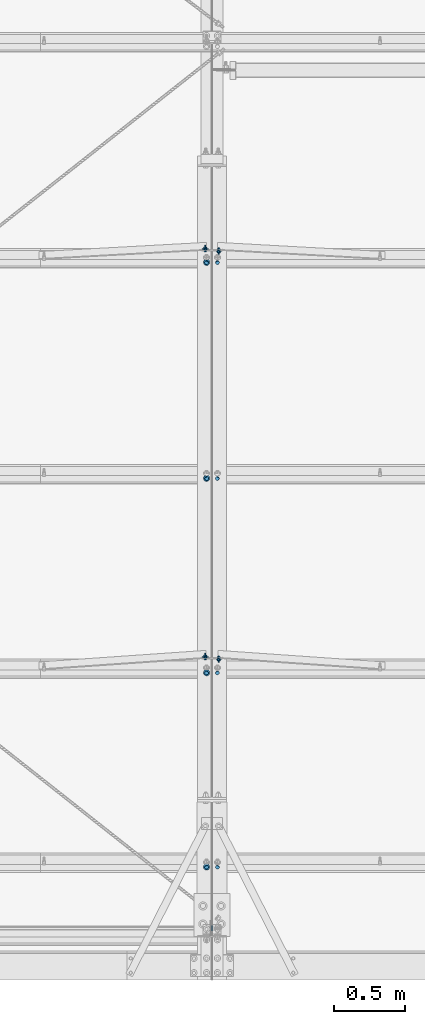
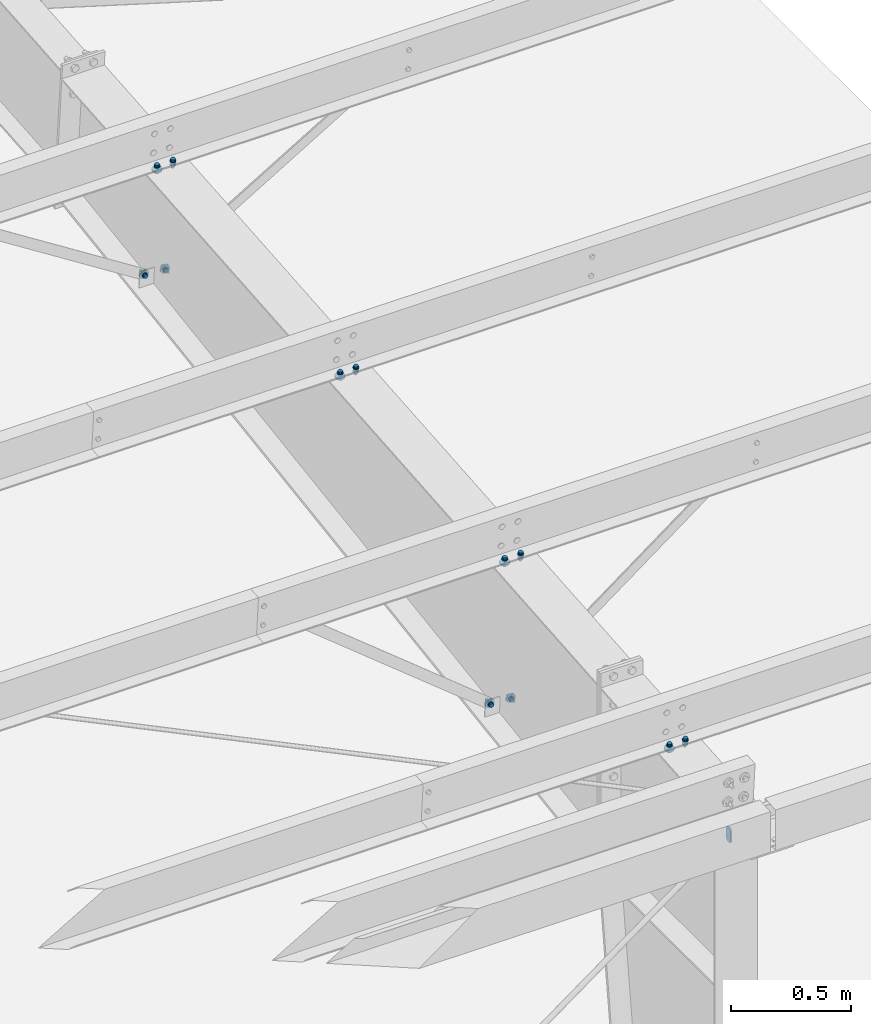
# One storey, part 167 of 185: 17 mechanical fasteners, 10 elements without a shape of their own.
"""IFC2X3 building model written with IfcOpenShell, lengths in millimetres."""

from ifc_helpers import new_model, si_unit, frame, frame_2d, origin_with_axes, origin_2d_with_axis, place, context, subcontext, project, spatial, polyline, circle_curve, parameter, trimmed, segment, composite_curve, circle, outline, extrude, source, transform, mapped, material, type_object, element, aggregate, save


model = new_model("IFC2X3")

# Units and contexts
model_context = context("Model", 3, precision=1e-05, world=origin_with_axes())
body_context = subcontext(model_context, "Body", "Model", "MODEL_VIEW")
ifc_project = project(units=[si_unit("LENGTHUNIT", "METRE", prefix="MILLI"), si_unit("AREAUNIT", "SQUARE_METRE"), si_unit("VOLUMEUNIT", "CUBIC_METRE"), si_unit("MASSUNIT", "GRAM", prefix="KILO"), si_unit("TIMEUNIT", "SECOND"), si_unit("PLANEANGLEUNIT", "RADIAN"), si_unit("SOLIDANGLEUNIT", "STERADIAN"), si_unit("THERMODYNAMICTEMPERATUREUNIT", "DEGREE_CELSIUS"), si_unit("LUMINOUSINTENSITYUNIT", "LUMEN")], contexts=[model_context])

# Site, building, storey
site_placement = place(None, origin_with_axes())
site = spatial("IfcSite", under=ifc_project, at=site_placement, Name="Undefined", CompositionType="ELEMENT")
building_placement = place(site_placement, origin_with_axes())
building = spatial("IfcBuilding", under=site, at=building_placement, Name="Undefined", CompositionType="ELEMENT")
storey_placement = place(building_placement, origin_with_axes())
storey = spatial("IfcBuildingStorey", under=building, at=storey_placement, Name="Undefined", CompositionType="ELEMENT", Elevation=0.0)

# Assembly, mechanical fastener
assembly_1_placement = place(storey_placement, origin_with_axes())
assembly_1 = element("IfcElementAssembly", 1, at=assembly_1_placement, inside=storey, Name="Steel Assembly", AssemblyPlace="NOTDEFINED", PredefinedType="RIGID_FRAME")
ifc_material_1 = material(Name="Undefined")
discrete_accessory_type = type_object("IfcDiscreteAccessoryType", Name="Bolt assembly")
shared_shape_1 = source(origin_with_axes(), body_context, "Body", "SweptSolid", [
    extrude(circle(Radius=7.14374971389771, at=origin_2d_with_axis()), frame((0.0, -1.59000001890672, 0.0), z_axis=(0.0, 1.0, 0.0), x_axis=(1.0, 0.0, 0.0)), (0.0, 0.0, 1.0), 1.7),
    extrude(outline(polyline([(10.9985221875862, 0.0), (5.4992610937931, 9.52499961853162), (-5.4992610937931, 9.52499961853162), (-10.9985221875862, 0.0), (-5.4992610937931, -9.52499961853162), (5.4992610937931, -9.52499961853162), (10.9985221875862, 0.0)])), frame((0.0, -15.0837496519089, 0.0), z_axis=(0.0, 1.0, 0.0), x_axis=(1.0, 0.0, 0.0)), (0.0, 0.0, 1.0), 9.5),
    extrude(circle(Radius=6.34999990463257, at=origin_2d_with_axis()), frame((0.0, -5.5587500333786, 0.0), z_axis=(0.0, 1.0, 0.0), x_axis=(1.0, 0.0, 0.0)), (0.0, 0.0, 1.0), 38.1),
    extrude(circle(Radius=13.4937496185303, at=origin_2d_with_axis()), frame((0.0, -5.5587500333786, 0.0), z_axis=(0.0, 1.0, 0.0), x_axis=(1.0, 0.0, 0.0)), (0.0, 0.0, 1.0), 4.0),
    extrude(circle(Radius=22.2250003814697, at=origin_2d_with_axis()), frame((0.0, 0.0, 0.0), z_axis=(0.0, 1.0, 0.0), x_axis=(1.0, 0.0, 0.0)), (0.0, 0.0, 1.0), 7.9),
    extrude(outline(polyline([(12.8316099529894, 0.0), (6.4158049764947, 11.1125001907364), (-6.4158049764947, 11.1125001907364), (-12.8316099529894, 0.0), (-6.4158049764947, -11.1125001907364), (6.4158049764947, -11.1125001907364), (12.8316099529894, 0.0)])), frame((0.0, 7.93750000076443, 0.0), z_axis=(0.0, 1.0, 0.0), x_axis=(1.0, 0.0, 0.0)), (0.0, 0.0, 1.0), 12.3),
])
mechanical_fastener_1_placement = place(assembly_1_placement, frame((37766.6639261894, 5133.85828382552, 5717.19673029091), z_axis=(0.553384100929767, 0.0691707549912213, -0.830049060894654), x_axis=(0.832926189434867, -0.0459560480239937, 0.551472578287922)))
mechanical_fastener_1 = element("IfcMechanicalFastener", 2, at=mechanical_fastener_1_placement, type_object=discrete_accessory_type, material=ifc_material_1, Name="Bolt assembly", NominalDiameter=12.6999998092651, NominalLength=38.0999984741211, context=body_context, shape_type="MappedRepresentation", body=[
    mapped(shared_shape_1, transform((0.0, 0.0, 0.0))),
])
aggregate(assembly_1, [mechanical_fastener_1])

assembly_2_placement = place(storey_placement, origin_with_axes())
assembly_2 = element("IfcElementAssembly", 3, at=assembly_2_placement, inside=storey, Name="Steel Assembly", AssemblyPlace="NOTDEFINED", PredefinedType="RIGID_FRAME")
mechanical_fastener_2_placement = place(assembly_2_placement, frame((37766.5983884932, 2264.37498076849, 5283.35510462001), z_axis=(0.641182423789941, 0.0637281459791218, -0.764737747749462), x_axis=(0.767388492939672, -0.053247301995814, 0.638967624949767)))
mechanical_fastener_2 = element("IfcMechanicalFastener", 4, at=mechanical_fastener_2_placement, type_object=discrete_accessory_type, material=ifc_material_1, Name="Bolt assembly", NominalDiameter=12.6999998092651, NominalLength=38.0999984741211, context=body_context, shape_type="MappedRepresentation", body=[
    mapped(shared_shape_1, transform((0.0, 0.0, 0.0))),
])
aggregate(assembly_2, [mechanical_fastener_2])

assembly_3_placement = place(storey_placement, origin_with_axes())
assembly_3 = element("IfcElementAssembly", 5, at=assembly_3_placement, inside=storey, Name="Steel Assembly", AssemblyPlace="NOTDEFINED", PredefinedType="RIGID_FRAME")
shared_shape_2 = source(origin_with_axes(), body_context, "Body", "SweptSolid", [
    extrude(circle(Radius=7.14374971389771, at=origin_2d_with_axis()), frame((0.0, 0.0, 0.0), z_axis=(0.0, 1.0, 0.0), x_axis=(1.0, 0.0, 0.0)), (0.0, 0.0, 1.0), 1.7),
    extrude(outline(polyline([(10.9985221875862, 0.0), (5.4992610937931, 9.52499961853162), (-5.4992610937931, 9.52499961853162), (-10.9985221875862, 0.0), (-5.4992610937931, -9.52499961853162), (5.4992610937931, -9.52499961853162), (10.9985221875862, 0.0)])), frame((0.0, -13.4937496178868, 0.0), z_axis=(0.0, 1.0, 0.0), x_axis=(1.0, 0.0, 0.0)), (0.0, 0.0, 1.0), 9.5),
    extrude(circle(Radius=6.34999990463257, at=origin_2d_with_axis()), frame((0.0, -3.96874999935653, 0.0), z_axis=(0.0, 1.0, 0.0), x_axis=(1.0, 0.0, 0.0)), (0.0, 0.0, 1.0), 38.1),
    extrude(circle(Radius=13.4937496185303, at=origin_2d_with_axis()), frame((0.0, -3.96874999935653, 0.0), z_axis=(0.0, 1.0, 0.0), x_axis=(1.0, 0.0, 0.0)), (0.0, 0.0, 1.0), 4.0),
    extrude(circle(Radius=22.2250003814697, at=origin_2d_with_axis()), frame((0.0, 1.5900000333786, 0.0), z_axis=(0.0, 1.0, 0.0), x_axis=(1.0, 0.0, 0.0)), (0.0, 0.0, 1.0), 7.9),
    extrude(outline(polyline([(12.8316099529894, 0.0), (6.4158049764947, 11.1125001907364), (-6.4158049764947, 11.1125001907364), (-12.8316099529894, 0.0), (-6.4158049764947, -11.1125001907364), (6.4158049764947, -11.1125001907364), (12.8316099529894, 0.0)])), frame((0.0, 9.5275000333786, 0.0), z_axis=(0.0, 1.0, 0.0), x_axis=(1.0, 0.0, 0.0)), (0.0, 0.0, 1.0), 12.3),
])
mechanical_fastener_3_placement = place(assembly_3_placement, frame((37671.3360738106, 5133.85828382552, 5717.1967302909), z_axis=(-0.553384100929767, 0.0691707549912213, -0.830049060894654), x_axis=(-0.832926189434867, -0.0459560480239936, 0.551472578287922)))
mechanical_fastener_3 = element("IfcMechanicalFastener", 6, at=mechanical_fastener_3_placement, type_object=discrete_accessory_type, material=ifc_material_1, Name="Bolt assembly", NominalDiameter=12.6999998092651, NominalLength=38.0999984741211, context=body_context, shape_type="MappedRepresentation", body=[
    mapped(shared_shape_2, transform((0.0, 0.0, 0.0))),
])
aggregate(assembly_3, [mechanical_fastener_3])

assembly_4_placement = place(storey_placement, origin_with_axes())
assembly_4 = element("IfcElementAssembly", 7, at=assembly_4_placement, inside=storey, Name="Steel Assembly", AssemblyPlace="NOTDEFINED", PredefinedType="RIGID_FRAME")
mechanical_fastener_4_placement = place(assembly_4_placement, frame((37671.4016115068, 2264.37498076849, 5283.35510462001), z_axis=(-0.641182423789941, 0.0637281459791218, -0.764737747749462), x_axis=(-0.767388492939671, -0.0532473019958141, 0.638967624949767)))
mechanical_fastener_4 = element("IfcMechanicalFastener", 8, at=mechanical_fastener_4_placement, type_object=discrete_accessory_type, material=ifc_material_1, Name="Bolt assembly", NominalDiameter=12.6999998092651, NominalLength=38.0999984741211, context=body_context, shape_type="MappedRepresentation", body=[
    mapped(shared_shape_2, transform((0.0, 0.0, 0.0))),
])
aggregate(assembly_4, [mechanical_fastener_4])

# Assembly, mechanical fasteners
assembly_5_placement = place(storey_placement, origin_with_axes())
assembly_5 = element("IfcElementAssembly", 9, at=assembly_5_placement, inside=storey, Name="Steel Assembly", AssemblyPlace="NOTDEFINED", PredefinedType="RIGID_FRAME")
ifc_material_2 = material(Name="7990")
shared_shape_3 = source(origin_with_axes(), body_context, "Body", "SweptSolid", [
    extrude(circle(Radius=7.14374971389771, at=origin_2d_with_axis()), frame((0.0, -3.41600000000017, 0.0), z_axis=(0.0, 1.0, 0.0), x_axis=(1.0, 0.0, 0.0)), (0.0, 0.0, 1.0), 3.5),
    extrude(circle(Radius=11.4299998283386, at=origin_2d_with_axis()), frame((0.0, 0.0, 0.0), z_axis=(0.0, 1.0, 0.0), x_axis=(1.0, 0.0, 0.0)), (0.0, 0.0, 1.0), 4.2),
    extrude(outline(polyline([(12.171698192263, 0.0), (6.08584909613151, 10.5409998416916), (-6.08584909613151, 10.5409998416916), (-12.171698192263, 0.0), (-6.08584909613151, -10.5409998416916), (6.08584909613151, -10.5409998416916), (12.171698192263, 0.0)])), frame((0.0, 4.1909999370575, 0.0), z_axis=(0.0, 1.0, 0.0), x_axis=(1.0, 0.0, 0.0)), (0.0, 0.0, 1.0), 8.4),
])
mechanical_fastener_5_placement = place(assembly_5_placement, frame((37672.169, 5133.90423987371, 5716.6452577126), z_axis=(0.921635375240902, 0.0322263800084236, -0.386716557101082), x_axis=(-0.388056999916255, 0.0765376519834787, -0.9184518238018)))
mechanical_fastener_5 = element("IfcMechanicalFastener", 10, at=mechanical_fastener_5_placement, type_object=discrete_accessory_type, material=ifc_material_2, Name="Bolt assembly", NominalDiameter=12.6999998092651, NominalLength=38.0999984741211, context=body_context, shape_type="MappedRepresentation", body=[
    mapped(shared_shape_3, transform((0.0, 0.0, 0.0))),
])
mechanical_fastener_6_placement = place(assembly_5_placement, frame((37672.169, 2264.42822807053, 5282.71613699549), z_axis=(0.921635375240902, 0.0322263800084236, -0.386716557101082), x_axis=(-0.388056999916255, 0.0765376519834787, -0.9184518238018)))
mechanical_fastener_6 = element("IfcMechanicalFastener", 11, at=mechanical_fastener_6_placement, type_object=discrete_accessory_type, material=ifc_material_2, Name="Bolt assembly", NominalDiameter=12.6999998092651, NominalLength=38.0999984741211, context=body_context, shape_type="MappedRepresentation", body=[
    mapped(shared_shape_3, transform((0.0, 0.0, 0.0))),
])
shared_shape_4 = source(origin_with_axes(), body_context, "Body", "SweptSolid", [
    extrude(circle(Radius=7.14374971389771, at=origin_2d_with_axis()), frame((0.0, 0.0, 0.0), z_axis=(0.0, 1.0, 0.0), x_axis=(1.0, 0.0, 0.0)), (0.0, 0.0, 1.0), 3.5),
    extrude(circle(Radius=11.4299998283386, at=origin_2d_with_axis()), frame((0.0, 3.41600000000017, 0.0), z_axis=(0.0, 1.0, 0.0), x_axis=(1.0, 0.0, 0.0)), (0.0, 0.0, 1.0), 4.2),
    extrude(outline(polyline([(12.171698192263, 0.0), (6.08584909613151, 10.5409998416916), (-6.08584909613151, 10.5409998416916), (-12.171698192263, 0.0), (-6.08584909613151, -10.5409998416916), (6.08584909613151, -10.5409998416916), (12.171698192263, 0.0)])), frame((0.0, 7.60699993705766, 0.0), z_axis=(0.0, 1.0, 0.0), x_axis=(1.0, 0.0, 0.0)), (0.0, 0.0, 1.0), 8.4),
])
mechanical_fastener_7_placement = place(assembly_5_placement, frame((37765.831, 5133.90423987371, 5716.6452577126), z_axis=(-0.921635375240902, 0.0322263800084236, -0.386716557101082), x_axis=(0.388056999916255, 0.0765376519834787, -0.9184518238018)))
mechanical_fastener_7 = element("IfcMechanicalFastener", 12, at=mechanical_fastener_7_placement, type_object=discrete_accessory_type, material=ifc_material_2, Name="Bolt assembly", NominalDiameter=12.6999998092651, NominalLength=38.0999984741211, context=body_context, shape_type="MappedRepresentation", body=[
    mapped(shared_shape_4, transform((0.0, 0.0, 0.0))),
])
mechanical_fastener_8_placement = place(assembly_5_placement, frame((37765.831, 2264.42822807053, 5282.71613699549), z_axis=(-0.921635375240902, 0.0322263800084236, -0.386716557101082), x_axis=(0.388056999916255, 0.0765376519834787, -0.9184518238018)))
mechanical_fastener_8 = element("IfcMechanicalFastener", 13, at=mechanical_fastener_8_placement, type_object=discrete_accessory_type, material=ifc_material_2, Name="Bolt assembly", NominalDiameter=12.6999998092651, NominalLength=38.0999984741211, context=body_context, shape_type="MappedRepresentation", body=[
    mapped(shared_shape_4, transform((0.0, 0.0, 0.0))),
])
aggregate(assembly_5, [mechanical_fastener_7, mechanical_fastener_5, mechanical_fastener_8, mechanical_fastener_6])

# Assembly, mechanical fastener
assembly_6_placement = place(storey_placement, origin_with_axes())
assembly_6 = element("IfcElementAssembly", 14, at=assembly_6_placement, inside=storey, Name="Steel Assembly", AssemblyPlace="NOTDEFINED", PredefinedType="RIGID_FRAME")
shared_shape_5 = source(origin_with_axes(), body_context, "Body", "SweptSolid", [
    extrude(outline(composite_curve([segment(polyline([(-23.8125, 17.4624996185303), (23.8125, 17.4624996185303)]), True, "CONTINUOUS"), segment(trimmed(circle_curve(frame_2d((23.8125, 4.76249980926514), x_axis=(0.0, 1.0)), 12.7), [parameter(0.0)], [parameter(4.71238898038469)], False, "PARAMETER"), True, "CONTINUOUS"), segment(polyline([(36.5124998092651, 4.76249980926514), (36.5124998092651, -4.76249980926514)]), True, "CONTINUOUS"), segment(trimmed(circle_curve(frame_2d((23.8125, -4.76249980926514), x_axis=(1.0, 0.0)), 12.7), [parameter(0.0)], [parameter(4.71238898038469)], False, "PARAMETER"), True, "CONTINUOUS"), segment(polyline([(23.8125, -17.4624996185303), (-23.8125, -17.4624996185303)]), True, "CONTINUOUS"), segment(trimmed(circle_curve(frame_2d((-23.8125, -4.76249980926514), x_axis=(0.0, -1.0)), 12.7), [parameter(0.0)], [parameter(4.71238898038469)], False, "PARAMETER"), True, "CONTINUOUS"), segment(polyline([(-36.5124998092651, -4.76249980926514), (-36.5124998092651, 4.76249980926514)]), True, "CONTINUOUS"), segment(trimmed(circle_curve(frame_2d((-23.8125, 4.76249980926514), x_axis=(-1.0, 0.0)), 12.7), [parameter(0.0)], [parameter(4.71238898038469)], False, "PARAMETER"), True, "DISCONTINUOUS")], self_intersect=False)), frame((0.0, -3.96874999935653, 0.0), z_axis=(0.0, 1.0, 0.0), x_axis=(1.0, 0.0, 0.0)), (0.0, 0.0, 1.0), 8.0),
])
mechanical_fastener_9_placement = place(assembly_6_placement, frame((37719.0, 363.473999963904, 5757.77423229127), z_axis=(0.0, 1.0, 0.0), x_axis=(0.0, 0.0, -1.0)))
mechanical_fastener_9 = element("IfcMechanicalFastener", 15, at=mechanical_fastener_9_placement, type_object=discrete_accessory_type, material=ifc_material_1, Name="Bolt assembly", NominalDiameter=25.3999996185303, NominalLength=31.75, context=body_context, shape_type="MappedRepresentation", body=[
    mapped(shared_shape_5, transform((0.0, 0.0, 0.0))),
])
aggregate(assembly_6, [mechanical_fastener_9])

# Assembly, mechanical fasteners
assembly_7_placement = place(storey_placement, origin_with_axes())
assembly_7 = element("IfcElementAssembly", 16, at=assembly_7_placement, inside=storey, Name="Steel Assembly", AssemblyPlace="NOTDEFINED", PredefinedType="RIGID_FRAME")
shared_shape_6 = source(origin_with_axes(), body_context, "Body", "SweptSolid", [
    extrude(circle(Radius=7.14374971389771, at=origin_2d_with_axis()), frame((0.0, -0.1, 0.0), z_axis=(0.0, 1.0, 0.0), x_axis=(1.0, 0.0, 0.0)), (0.0, 0.0, 1.0), 8.1),
    extrude(circle(Radius=7.14374971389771, at=origin_2d_with_axis()), frame((0.0, -3.08000006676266, 0.0), z_axis=(0.0, 1.0, 0.0), x_axis=(1.0, 0.0, 0.0)), (0.0, 0.0, 1.0), 3.2),
    extrude(circle(Radius=7.14374971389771, at=origin_2d_with_axis()), frame((0.0, -3.08000006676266, 0.0), z_axis=(0.0, 1.0, 0.0), x_axis=(1.0, 0.0, 0.0)), (0.0, 0.0, 1.0), 3.2),
    extrude(outline(polyline([(10.9985221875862, 0.0), (5.4992610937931, 9.52499961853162), (-5.4992610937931, 9.52499961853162), (-10.9985221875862, 0.0), (-5.4992610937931, -9.52499961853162), (5.4992610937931, -9.52499961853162), (10.9985221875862, 0.0)])), frame((0.0, -16.6737496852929, 0.0), z_axis=(0.0, 1.0, 0.0), x_axis=(1.0, 0.0, 0.0)), (0.0, 0.0, 1.0), 9.5),
    extrude(circle(Radius=6.34999990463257, at=origin_2d_with_axis()), frame((0.0, -7.14875006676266, 0.0), z_axis=(0.0, 1.0, 0.0), x_axis=(1.0, 0.0, 0.0)), (0.0, 0.0, 1.0), 38.1),
    extrude(circle(Radius=13.4937496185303, at=origin_2d_with_axis()), frame((0.0, -7.14875006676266, 0.0), z_axis=(0.0, 1.0, 0.0), x_axis=(1.0, 0.0, 0.0)), (0.0, 0.0, 1.0), 4.0),
    extrude(circle(Radius=22.2250003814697, at=origin_2d_with_axis()), frame((0.0, 7.95019856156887, 0.0), z_axis=(0.0, 1.0, 0.0), x_axis=(1.0, 0.0, 0.0)), (0.0, 0.0, 1.0), 7.9),
    extrude(outline(polyline([(12.8316099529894, 0.0), (6.4158049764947, 11.1125001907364), (-6.4158049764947, 11.1125001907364), (-12.8316099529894, 0.0), (-6.4158049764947, -11.1125001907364), (6.4158049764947, -11.1125001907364), (12.8316099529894, 0.0)])), frame((0.0, 15.8876985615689, 0.0), z_axis=(0.0, 1.0, 0.0), x_axis=(1.0, 0.0, 0.0)), (0.0, 0.0, 1.0), 12.3),
])
mechanical_fastener_10_placement = place(assembly_7_placement, frame((37680.9, 793.549517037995, 5958.22479168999), z_axis=(1.0, 0.0, 0.0), x_axis=(0.0, -0.996545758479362, -0.0830454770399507)))
mechanical_fastener_10 = element("IfcMechanicalFastener", 17, at=mechanical_fastener_10_placement, type_object=discrete_accessory_type, material=ifc_material_1, Name="Bolt assembly", NominalDiameter=12.6999998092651, NominalLength=38.0999984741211, context=body_context, shape_type="MappedRepresentation", body=[
    mapped(shared_shape_6, transform((0.0, 0.0, 0.0))),
])
shared_shape_7 = source(origin_with_axes(), body_context, "Body", "SweptSolid", [
    extrude(circle(Radius=7.14374971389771, at=origin_2d_with_axis()), frame((0.0, -0.1, 0.0), z_axis=(0.0, 1.0, 0.0), x_axis=(1.0, 0.0, 0.0)), (0.0, 0.0, 1.0), 8.1),
    extrude(circle(Radius=7.14374971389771, at=origin_2d_with_axis()), frame((0.0, -3.08000006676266, 0.0), z_axis=(0.0, 1.0, 0.0), x_axis=(1.0, 0.0, 0.0)), (0.0, 0.0, 1.0), 3.2),
    extrude(circle(Radius=7.14374971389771, at=origin_2d_with_axis()), frame((0.0, -3.08000006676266, 0.0), z_axis=(0.0, 1.0, 0.0), x_axis=(1.0, 0.0, 0.0)), (0.0, 0.0, 1.0), 3.2),
    extrude(outline(polyline([(10.9985221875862, 0.0), (5.4992610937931, 9.52499961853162), (-5.4992610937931, 9.52499961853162), (-10.9985221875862, 0.0), (-5.4992610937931, -9.52499961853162), (5.4992610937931, -9.52499961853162), (10.9985221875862, 0.0)])), frame((0.0, -16.6737496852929, 0.0), z_axis=(0.0, 1.0, 0.0), x_axis=(1.0, 0.0, 0.0)), (0.0, 0.0, 1.0), 9.5),
    extrude(circle(Radius=6.34999990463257, at=origin_2d_with_axis()), frame((0.0, -7.14875006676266, 0.0), z_axis=(0.0, 1.0, 0.0), x_axis=(1.0, 0.0, 0.0)), (0.0, 0.0, 1.0), 38.1),
    extrude(circle(Radius=13.4937496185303, at=origin_2d_with_axis()), frame((0.0, -7.14875006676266, 0.0), z_axis=(0.0, 1.0, 0.0), x_axis=(1.0, 0.0, 0.0)), (0.0, 0.0, 1.0), 4.0),
    extrude(outline(polyline([(12.8316099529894, 0.0), (6.4158049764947, 11.1125001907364), (-6.4158049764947, 11.1125001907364), (-12.8316099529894, 0.0), (-6.4158049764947, -11.1125001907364), (6.4158049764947, -11.1125001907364), (12.8316099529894, 0.0)])), frame((0.0, 7.95019856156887, 0.0), z_axis=(0.0, 1.0, 0.0), x_axis=(1.0, 0.0, 0.0)), (0.0, 0.0, 1.0), 12.3),
])
mechanical_fastener_11_placement = place(assembly_7_placement, frame((37757.1, 793.549517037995, 5958.22479168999), z_axis=(1.0, 0.0, 0.0), x_axis=(0.0, -0.996545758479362, -0.0830454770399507)))
mechanical_fastener_11 = element("IfcMechanicalFastener", 18, at=mechanical_fastener_11_placement, type_object=discrete_accessory_type, material=ifc_material_1, Name="Bolt assembly", NominalDiameter=12.6999998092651, NominalLength=38.0999984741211, context=body_context, shape_type="MappedRepresentation", body=[
    mapped(shared_shape_7, transform((0.0, 0.0, 0.0))),
])
aggregate(assembly_7, [mechanical_fastener_10, mechanical_fastener_11])

assembly_8_placement = place(storey_placement, origin_with_axes())
assembly_8 = element("IfcElementAssembly", 19, at=assembly_8_placement, inside=storey, Name="Steel Assembly", AssemblyPlace="NOTDEFINED", PredefinedType="RIGID_FRAME")
shared_shape_8 = source(origin_with_axes(), body_context, "Body", "SweptSolid", [
    extrude(circle(Radius=7.14374971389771, at=origin_2d_with_axis()), frame((0.0, -0.0897199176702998, 0.0), z_axis=(0.0, 1.0, 0.0), x_axis=(1.0, 0.0, 0.0)), (0.0, 0.0, 1.0), 8.0),
    extrude(circle(Radius=7.14374971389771, at=origin_2d_with_axis()), frame((0.0, -3.08000006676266, 0.0), z_axis=(0.0, 1.0, 0.0), x_axis=(1.0, 0.0, 0.0)), (0.0, 0.0, 1.0), 3.2),
    extrude(circle(Radius=7.14374971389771, at=origin_2d_with_axis()), frame((0.0, -3.08000006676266, 0.0), z_axis=(0.0, 1.0, 0.0), x_axis=(1.0, 0.0, 0.0)), (0.0, 0.0, 1.0), 3.2),
    extrude(outline(polyline([(10.9985221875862, 0.0), (5.4992610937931, 9.52499961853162), (-5.4992610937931, 9.52499961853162), (-10.9985221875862, 0.0), (-5.4992610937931, -9.52499961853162), (5.4992610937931, -9.52499961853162), (10.9985221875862, 0.0)])), frame((0.0, -16.6737496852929, 0.0), z_axis=(0.0, 1.0, 0.0), x_axis=(1.0, 0.0, 0.0)), (0.0, 0.0, 1.0), 9.5),
    extrude(circle(Radius=6.34999990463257, at=origin_2d_with_axis()), frame((0.0, -7.14875006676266, 0.0), z_axis=(0.0, 1.0, 0.0), x_axis=(1.0, 0.0, 0.0)), (0.0, 0.0, 1.0), 38.1),
    extrude(circle(Radius=13.4937496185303, at=origin_2d_with_axis()), frame((0.0, -7.14875006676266, 0.0), z_axis=(0.0, 1.0, 0.0), x_axis=(1.0, 0.0, 0.0)), (0.0, 0.0, 1.0), 4.0),
    extrude(circle(Radius=22.2250003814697, at=origin_2d_with_axis()), frame((0.0, 7.88428008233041, 0.0), z_axis=(0.0, 1.0, 0.0), x_axis=(1.0, 0.0, 0.0)), (0.0, 0.0, 1.0), 7.9),
    extrude(outline(polyline([(12.8316099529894, 0.0), (6.4158049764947, 11.1125001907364), (-6.4158049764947, 11.1125001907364), (-12.8316099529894, 0.0), (-6.4158049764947, -11.1125001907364), (6.4158049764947, -11.1125001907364), (12.8316099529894, 0.0)])), frame((0.0, 15.8217800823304, 0.0), z_axis=(0.0, 1.0, 0.0), x_axis=(1.0, 0.0, 0.0)), (0.0, 0.0, 1.0), 12.3),
])
mechanical_fastener_12_placement = place(assembly_8_placement, frame((37680.9, 2160.41167902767, 6072.12997208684), z_axis=(1.0, 0.0, 0.0), x_axis=(0.0, -0.996545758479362, -0.0830454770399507)))
mechanical_fastener_12 = element("IfcMechanicalFastener", 20, at=mechanical_fastener_12_placement, type_object=discrete_accessory_type, material=ifc_material_1, Name="Bolt assembly", NominalDiameter=12.6999998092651, NominalLength=38.0999984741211, context=body_context, shape_type="MappedRepresentation", body=[
    mapped(shared_shape_8, transform((0.0, 0.0, 0.0))),
])
shared_shape_9 = source(origin_with_axes(), body_context, "Body", "SweptSolid", [
    extrude(circle(Radius=7.14374971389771, at=origin_2d_with_axis()), frame((0.0, -0.0897199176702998, 0.0), z_axis=(0.0, 1.0, 0.0), x_axis=(1.0, 0.0, 0.0)), (0.0, 0.0, 1.0), 8.0),
    extrude(circle(Radius=7.14374971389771, at=origin_2d_with_axis()), frame((0.0, -3.08000006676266, 0.0), z_axis=(0.0, 1.0, 0.0), x_axis=(1.0, 0.0, 0.0)), (0.0, 0.0, 1.0), 3.2),
    extrude(circle(Radius=7.14374971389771, at=origin_2d_with_axis()), frame((0.0, -3.08000006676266, 0.0), z_axis=(0.0, 1.0, 0.0), x_axis=(1.0, 0.0, 0.0)), (0.0, 0.0, 1.0), 3.2),
    extrude(outline(polyline([(10.9985221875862, 0.0), (5.4992610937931, 9.52499961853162), (-5.4992610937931, 9.52499961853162), (-10.9985221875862, 0.0), (-5.4992610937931, -9.52499961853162), (5.4992610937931, -9.52499961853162), (10.9985221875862, 0.0)])), frame((0.0, -16.6737496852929, 0.0), z_axis=(0.0, 1.0, 0.0), x_axis=(1.0, 0.0, 0.0)), (0.0, 0.0, 1.0), 9.5),
    extrude(circle(Radius=6.34999990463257, at=origin_2d_with_axis()), frame((0.0, -7.14875006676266, 0.0), z_axis=(0.0, 1.0, 0.0), x_axis=(1.0, 0.0, 0.0)), (0.0, 0.0, 1.0), 38.1),
    extrude(circle(Radius=13.4937496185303, at=origin_2d_with_axis()), frame((0.0, -7.14875006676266, 0.0), z_axis=(0.0, 1.0, 0.0), x_axis=(1.0, 0.0, 0.0)), (0.0, 0.0, 1.0), 4.0),
    extrude(outline(polyline([(12.8316099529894, 0.0), (6.4158049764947, 11.1125001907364), (-6.4158049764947, 11.1125001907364), (-12.8316099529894, 0.0), (-6.4158049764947, -11.1125001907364), (6.4158049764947, -11.1125001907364), (12.8316099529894, 0.0)])), frame((0.0, 7.88428008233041, 0.0), z_axis=(0.0, 1.0, 0.0), x_axis=(1.0, 0.0, 0.0)), (0.0, 0.0, 1.0), 12.3),
])
mechanical_fastener_13_placement = place(assembly_8_placement, frame((37757.1, 2160.41167902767, 6072.12997208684), z_axis=(1.0, 0.0, 0.0), x_axis=(0.0, -0.996545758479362, -0.0830454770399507)))
mechanical_fastener_13 = element("IfcMechanicalFastener", 21, at=mechanical_fastener_13_placement, type_object=discrete_accessory_type, material=ifc_material_1, Name="Bolt assembly", NominalDiameter=12.6999998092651, NominalLength=38.0999984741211, context=body_context, shape_type="MappedRepresentation", body=[
    mapped(shared_shape_9, transform((0.0, 0.0, 0.0))),
])
aggregate(assembly_8, [mechanical_fastener_12, mechanical_fastener_13])

# Assembly, mechanical fastener
assembly_9_placement = place(storey_placement, origin_with_axes())
assembly_9 = element("IfcElementAssembly", 22, at=assembly_9_placement, inside=storey, Name="Steel Assembly", AssemblyPlace="NOTDEFINED", PredefinedType="RIGID_FRAME")
shared_shape_10 = source(origin_with_axes(), body_context, "Body", "SweptSolid", [
    extrude(circle(Radius=7.14374971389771, at=origin_2d_with_axis()), frame((0.0, -0.0897199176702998, 0.0), z_axis=(0.0, 1.0, 0.0), x_axis=(1.0, 0.0, 0.0)), (0.0, 0.0, 1.0), 8.0),
    extrude(circle(Radius=7.14374971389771, at=origin_2d_with_axis()), frame((0.0, -3.08000006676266, 0.0), z_axis=(0.0, 1.0, 0.0), x_axis=(1.0, 0.0, 0.0)), (0.0, 0.0, 1.0), 3.2),
    extrude(circle(Radius=7.14374971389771, at=origin_2d_with_axis()), frame((0.0, -3.18000030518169, 0.0), z_axis=(0.0, 1.0, 0.0), x_axis=(1.0, 0.0, 0.0)), (0.0, 0.0, 1.0), 3.2),
    extrude(outline(polyline([(10.9985221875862, 0.0), (5.4992610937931, 9.52499961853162), (-5.4992610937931, 9.52499961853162), (-10.9985221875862, 0.0), (-5.4992610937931, -9.52499961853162), (5.4992610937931, -9.52499961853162), (10.9985221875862, 0.0)])), frame((0.0, -16.6737496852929, 0.0), z_axis=(0.0, 1.0, 0.0), x_axis=(1.0, 0.0, 0.0)), (0.0, 0.0, 1.0), 9.5),
    extrude(circle(Radius=6.34999990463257, at=origin_2d_with_axis()), frame((0.0, -7.14875006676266, 0.0), z_axis=(0.0, 1.0, 0.0), x_axis=(1.0, 0.0, 0.0)), (0.0, 0.0, 1.0), 38.1),
    extrude(circle(Radius=13.4937496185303, at=origin_2d_with_axis()), frame((0.0, -7.14875006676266, 0.0), z_axis=(0.0, 1.0, 0.0), x_axis=(1.0, 0.0, 0.0)), (0.0, 0.0, 1.0), 4.0),
    extrude(circle(Radius=22.2250003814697, at=origin_2d_with_axis()), frame((0.0, 7.88428008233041, 0.0), z_axis=(0.0, 1.0, 0.0), x_axis=(1.0, 0.0, 0.0)), (0.0, 0.0, 1.0), 7.9),
    extrude(outline(polyline([(12.8316099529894, 0.0), (6.4158049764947, 11.1125001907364), (-6.4158049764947, 11.1125001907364), (-12.8316099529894, 0.0), (-6.4158049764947, -11.1125001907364), (6.4158049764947, -11.1125001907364), (12.8316099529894, 0.0)])), frame((0.0, 15.8217800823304, 0.0), z_axis=(0.0, 1.0, 0.0), x_axis=(1.0, 0.0, 0.0)), (0.0, 0.0, 1.0), 12.3),
])
mechanical_fastener_14_placement = place(assembly_9_placement, frame((37680.9, 3527.27384101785, 6186.03515248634), z_axis=(1.0, 0.0, 0.0), x_axis=(0.0, -0.996545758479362, -0.0830454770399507)))
mechanical_fastener_14 = element("IfcMechanicalFastener", 23, at=mechanical_fastener_14_placement, type_object=discrete_accessory_type, material=ifc_material_1, Name="Bolt assembly", NominalDiameter=12.6999998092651, NominalLength=38.0999984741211, context=body_context, shape_type="MappedRepresentation", body=[
    mapped(shared_shape_10, transform((0.0, 0.0, 0.0))),
])

assembly_10_placement = place(storey_placement, origin_with_axes())
assembly_10 = element("IfcElementAssembly", 24, at=assembly_10_placement, inside=storey, Name="Steel Assembly", AssemblyPlace="NOTDEFINED", PredefinedType="RIGID_FRAME")
mechanical_fastener_15_placement = place(assembly_10_placement, frame((37680.9, 5046.00957656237, 6312.59646403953), z_axis=(1.0, 0.0, 0.0), x_axis=(0.0, -0.996545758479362, -0.0830454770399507)))
mechanical_fastener_15 = element("IfcMechanicalFastener", 25, at=mechanical_fastener_15_placement, type_object=discrete_accessory_type, material=ifc_material_1, Name="Bolt assembly", NominalDiameter=12.6999998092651, NominalLength=38.0999984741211, context=body_context, shape_type="MappedRepresentation", body=[
    mapped(shared_shape_10, transform((0.0, 0.0, 0.0))),
])

# Mechanical fastener
shared_shape_11 = source(origin_with_axes(), body_context, "Body", "SweptSolid", [
    extrude(circle(Radius=7.14374971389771, at=origin_2d_with_axis()), frame((0.0, -0.0897199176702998, 0.0), z_axis=(0.0, 1.0, 0.0), x_axis=(1.0, 0.0, 0.0)), (0.0, 0.0, 1.0), 8.0),
    extrude(circle(Radius=7.14374971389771, at=origin_2d_with_axis()), frame((0.0, -3.08000006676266, 0.0), z_axis=(0.0, 1.0, 0.0), x_axis=(1.0, 0.0, 0.0)), (0.0, 0.0, 1.0), 3.2),
    extrude(circle(Radius=7.14374971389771, at=origin_2d_with_axis()), frame((0.0, -3.18000030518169, 0.0), z_axis=(0.0, 1.0, 0.0), x_axis=(1.0, 0.0, 0.0)), (0.0, 0.0, 1.0), 3.2),
    extrude(outline(polyline([(10.9985221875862, 0.0), (5.4992610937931, 9.52499961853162), (-5.4992610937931, 9.52499961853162), (-10.9985221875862, 0.0), (-5.4992610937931, -9.52499961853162), (5.4992610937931, -9.52499961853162), (10.9985221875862, 0.0)])), frame((0.0, -16.6737496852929, 0.0), z_axis=(0.0, 1.0, 0.0), x_axis=(1.0, 0.0, 0.0)), (0.0, 0.0, 1.0), 9.5),
    extrude(circle(Radius=6.34999990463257, at=origin_2d_with_axis()), frame((0.0, -7.14875006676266, 0.0), z_axis=(0.0, 1.0, 0.0), x_axis=(1.0, 0.0, 0.0)), (0.0, 0.0, 1.0), 38.1),
    extrude(circle(Radius=13.4937496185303, at=origin_2d_with_axis()), frame((0.0, -7.14875006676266, 0.0), z_axis=(0.0, 1.0, 0.0), x_axis=(1.0, 0.0, 0.0)), (0.0, 0.0, 1.0), 4.0),
    extrude(outline(polyline([(12.8316099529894, 0.0), (6.4158049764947, 11.1125001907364), (-6.4158049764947, 11.1125001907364), (-12.8316099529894, 0.0), (-6.4158049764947, -11.1125001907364), (6.4158049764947, -11.1125001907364), (12.8316099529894, 0.0)])), frame((0.0, 7.88428008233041, 0.0), z_axis=(0.0, 1.0, 0.0), x_axis=(1.0, 0.0, 0.0)), (0.0, 0.0, 1.0), 12.3),
])
mechanical_fastener_16_placement = place(assembly_9_placement, frame((37757.1, 3527.27384101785, 6186.03515248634), z_axis=(1.0, 0.0, 0.0), x_axis=(0.0, -0.996545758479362, -0.0830454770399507)))
mechanical_fastener_16 = element("IfcMechanicalFastener", 26, at=mechanical_fastener_16_placement, type_object=discrete_accessory_type, material=ifc_material_1, Name="Bolt assembly", NominalDiameter=12.6999998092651, NominalLength=38.0999984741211, context=body_context, shape_type="MappedRepresentation", body=[
    mapped(shared_shape_11, transform((0.0, 0.0, 0.0))),
])

aggregate(assembly_9, [mechanical_fastener_14, mechanical_fastener_16])

mechanical_fastener_17_placement = place(assembly_10_placement, frame((37757.1, 5046.00957656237, 6312.59646403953), z_axis=(1.0, 0.0, 0.0), x_axis=(0.0, -0.996545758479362, -0.0830454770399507)))
mechanical_fastener_17 = element("IfcMechanicalFastener", 27, at=mechanical_fastener_17_placement, type_object=discrete_accessory_type, material=ifc_material_1, Name="Bolt assembly", NominalDiameter=12.6999998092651, NominalLength=38.0999984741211, context=body_context, shape_type="MappedRepresentation", body=[
    mapped(shared_shape_11, transform((0.0, 0.0, 0.0))),
])

aggregate(assembly_10, [mechanical_fastener_15, mechanical_fastener_17])

save(model, "model.ifc")
